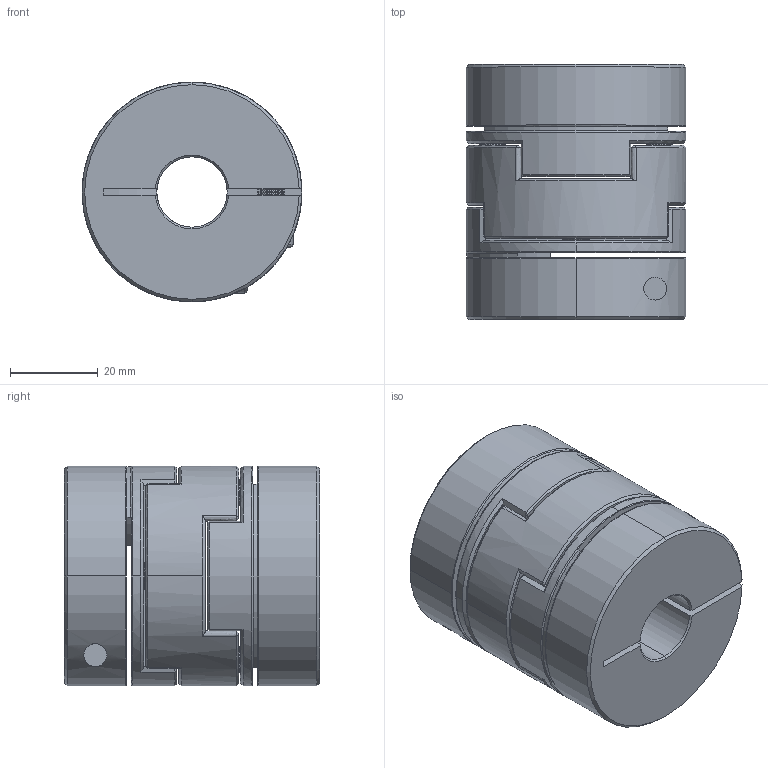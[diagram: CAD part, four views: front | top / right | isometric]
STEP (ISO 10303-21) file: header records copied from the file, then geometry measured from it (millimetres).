
FILE_DESCRIPTION (( 'STEP AP203' ), '1' );
FILE_NAME ('LZ-B-D50L58-16-20.STEP', '2021-10-29T08:11:59', ( '' ), ( '' ), 'SwSTEP 2.0', 'SolidWorks 2018', '' );
FILE_SCHEMA (( 'CONFIG_CONTROL_DESIGN' ));
Length unit declared in the file: millimetre
Products named in the file (1): LZ-B-D50L58-16-20
Bounding box: 50 x 58 x 50 mm (x, y, z)
Volume: 90464.9 mm3; surface area: 29913.9 mm2
Topology: 1 solids, 27 shells, 560 faces, 1364 edges, 810 vertices
Faces by surface type: cone 252, cylinder 160, plane 90, bspline 54, torus 4
Entity records: 17422 total; most frequent: CARTESIAN_POINT 4342, DIRECTION 2782, ORIENTED_EDGE 2720, EDGE_CURVE 1360, AXIS2_PLACEMENT_3D 1123, VERTEX_POINT 810, CIRCLE 616, EDGE_LOOP 594
